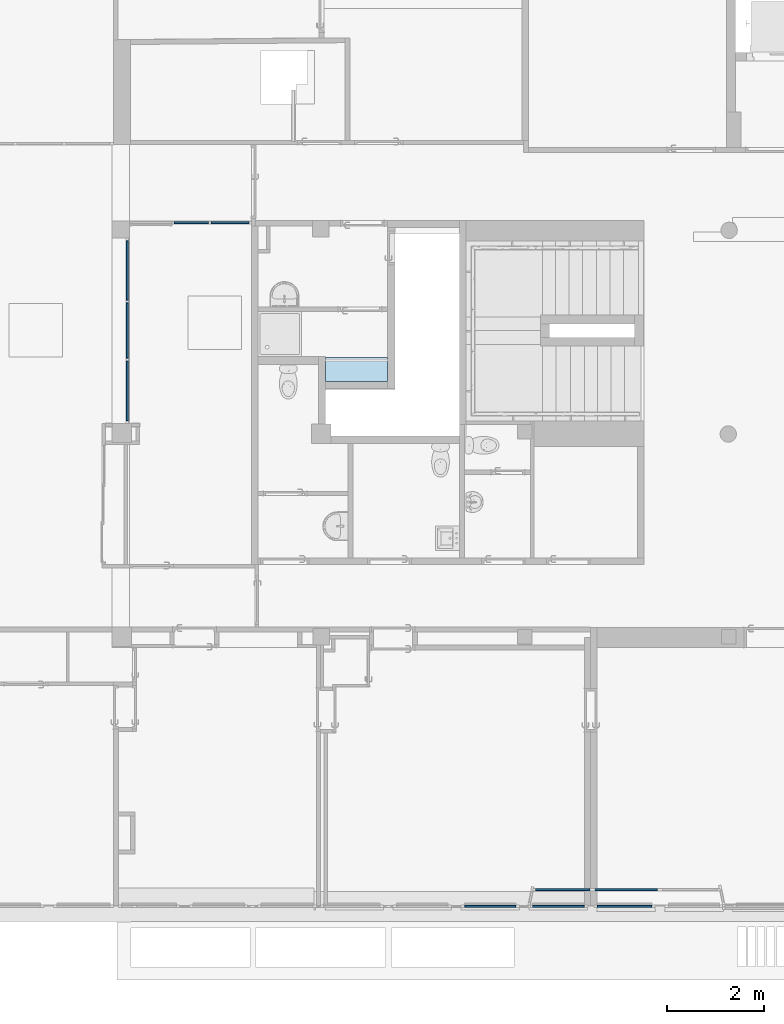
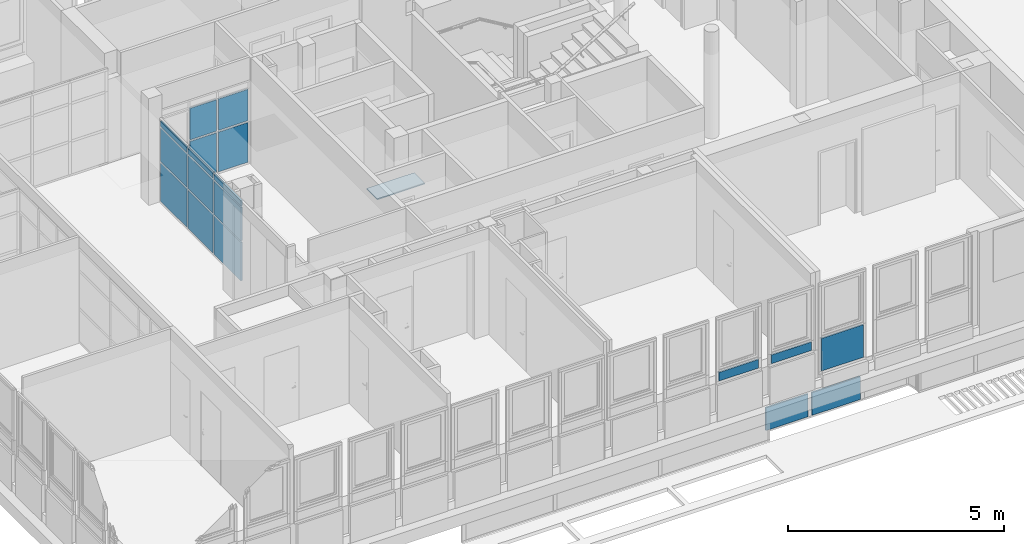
# One storey, part 29 of 97: 18 plates, 1 slab, 6 elements without a shape of their own.
"""IFC4 building model written with IfcOpenShell, lengths in metres."""

from ifc_helpers import new_model, entity, si_unit, converted_unit, derived_unit, direction, frame, origin, place, context, subcontext, project, spatial, indexed_curve, outline, extrude, shape, source, transform, mapped, material, layer, layer_set, type_object, type_shapes, element, aggregate, save


model = new_model("IFC4")

# Units and contexts
model_context = context("Model", 3, precision=1e-05, world=origin(), true_north=direction((6.12303176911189e-17, 1.0)))
body_context = subcontext(model_context, "Body", "Model", "MODEL_VIEW")
footprint_context = subcontext(model_context, "FootPrint", "Model", "MODEL_VIEW")
ifc_project = project(units=[si_unit("LENGTHUNIT", "METRE"), si_unit("AREAUNIT", "SQUARE_METRE"), si_unit("VOLUMEUNIT", "CUBIC_METRE"), converted_unit("PLANEANGLEUNIT", "DEGREE", entity("IfcRatioMeasure", 0.0174532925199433), si_unit("PLANEANGLEUNIT", "RADIAN"), dimensions=[0, 0, 0, 0, 0, 0, 0]), si_unit("MASSUNIT", "GRAM", prefix="KILO"), derived_unit("MASSDENSITYUNIT", [(si_unit("MASSUNIT", "GRAM", prefix="KILO"), 1), (si_unit("LENGTHUNIT", "METRE"), -3)]), derived_unit("MOMENTOFINERTIAUNIT", [(si_unit("LENGTHUNIT", "METRE"), 4)]), si_unit("TIMEUNIT", "SECOND"), si_unit("FREQUENCYUNIT", "HERTZ"), si_unit("THERMODYNAMICTEMPERATUREUNIT", "DEGREE_CELSIUS"), derived_unit("THERMALTRANSMITTANCEUNIT", [(si_unit("MASSUNIT", "GRAM", prefix="KILO"), 1), (si_unit("THERMODYNAMICTEMPERATUREUNIT", "KELVIN"), -1), (si_unit("TIMEUNIT", "SECOND"), -3)]), derived_unit("VOLUMETRICFLOWRATEUNIT", [(si_unit("LENGTHUNIT", "METRE"), 3), (si_unit("TIMEUNIT", "SECOND"), -1)]), si_unit("ELECTRICCURRENTUNIT", "AMPERE"), si_unit("ELECTRICVOLTAGEUNIT", "VOLT"), si_unit("POWERUNIT", "WATT"), si_unit("FORCEUNIT", "NEWTON", prefix="KILO"), si_unit("ILLUMINANCEUNIT", "LUX"), si_unit("LUMINOUSFLUXUNIT", "LUMEN"), si_unit("LUMINOUSINTENSITYUNIT", "CANDELA"), derived_unit("USERDEFINED", [(si_unit("MASSUNIT", "GRAM", prefix="KILO"), -1), (si_unit("LENGTHUNIT", "METRE"), -2), (si_unit("TIMEUNIT", "SECOND"), 3), (si_unit("LUMINOUSFLUXUNIT", "LUMEN"), 1)]), derived_unit("LINEARVELOCITYUNIT", [(si_unit("LENGTHUNIT", "METRE"), 1), (si_unit("TIMEUNIT", "SECOND"), -1)]), si_unit("PRESSUREUNIT", "PASCAL"), derived_unit("USERDEFINED", [(si_unit("LENGTHUNIT", "METRE"), -2), (si_unit("MASSUNIT", "GRAM", prefix="KILO"), 1), (si_unit("TIMEUNIT", "SECOND"), -2)]), derived_unit("LINEARFORCEUNIT", [(si_unit("MASSUNIT", "GRAM", prefix="KILO"), 1), (si_unit("LENGTHUNIT", "METRE"), 1), (si_unit("TIMEUNIT", "SECOND"), -2), (si_unit("LENGTHUNIT", "METRE"), -1)]), derived_unit("PLANARFORCEUNIT", [(si_unit("MASSUNIT", "GRAM", prefix="KILO"), 1), (si_unit("LENGTHUNIT", "METRE"), 1), (si_unit("TIMEUNIT", "SECOND"), -2), (si_unit("LENGTHUNIT", "METRE"), -2)])], contexts=[model_context])

# Site, building, storey
site_placement = place(None, origin())
site = spatial("IfcSite", under=ifc_project, at=site_placement, Name="Default", CompositionType="ELEMENT")
building_placement = place(site_placement, origin())
building = spatial("IfcBuilding", under=site, at=building_placement, Name="HOTEL CONSULAIRE BOULOGNE SUR MER", CompositionType="ELEMENT")
storey_placement = place(building_placement, frame((0.0, 0.0, 3.62152697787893)))
storey = spatial("IfcBuildingStorey", under=building, at=storey_placement, Name="Niveau 1", CompositionType="ELEMENT", Elevation=3.62152697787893)

# Curtain wall, plates
curtain_wall_type = type_object("IfcCurtainWallType", Name="Mur-rideau:Simple panneau", PredefinedType="NOTDEFINED")
curtain_wall_1_placement = place(storey_placement, frame((0.0, 0.0, -3.62152697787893)))
curtain_wall_1 = element("IfcCurtainWall", 1, at=curtain_wall_1_placement, inside=storey, type_object=curtain_wall_type, Name="Mur-rideau:Simple panneau", ObjectType="Mur-rideau:Simple panneau", PredefinedType="NOTDEFINED")
ifc_material_1 = material(Name="Verre", Category="Verre")
ifc_layer_1 = layer(ifc_material_1, 0.04, Name="Verre", Category="Verre")
ifc_layer_set_1 = layer_set([ifc_layer_1], Name="Mur-rideau:Simple panneau")
plate_type_1 = type_object("IfcPlateType", Name="Panneau système:Vitré", PredefinedType="CURTAIN_PANEL", material=ifc_layer_set_1)
shared_shape_1 = source(origin(), body_context, "Body", "SweptSolid", [
    extrude(outline(indexed_curve([(-0.02, -0.563), (0.02, -0.563), (0.02, 0.563), (-0.02, 0.563), (-0.02, -0.563)], self_intersect=False)), frame((0.563, 0.02, 0.0), z_axis=(0.0, 0.0, 1.0), x_axis=(0.0, 1.0, 0.0)), (0.0, 0.0, 1.0), 0.642526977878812),
])
shared_shape_2 = source(frame((-0.563, 0.00499999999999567, 0.0)), footprint_context, "FootPrint", "Curve2D", [
    entity("IfcIndexedPolyCurve", entity("IfcCartesianPointList2D", [[0.7346024, 0.00347599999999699], [0.7346024, 0.043475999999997], [-0.3913976, 0.043475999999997], [-0.3913976, 0.00347599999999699], [0.7346024, 0.00347599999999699]]), None, False),
])
type_shapes(plate_type_1, [shared_shape_1, shared_shape_2])
plate_1_placement = place(curtain_wall_1_placement, frame((3.18741738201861, -29.2507686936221, 2.36600000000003)))
plate_1 = element("IfcPlate", 2, at=plate_1_placement, type_object=plate_type_1, material=ifc_layer_set_1, Name="Panneau système:Vitré", ObjectType="Panneau système:Vitré", PredefinedType="CURTAIN_PANEL", shapes=[
    shape(body_context, "Body", "MappedRepresentation", [mapped(shared_shape_1, transform((0.0, 0.0, 0.0), scale=1.0))]),
    shape(body_context, "Body", "MappedRepresentation", [mapped(shared_shape_2, transform((0.0, 0.0, 0.0), scale=1.0))]),
])
plate_type_2 = type_object("IfcPlateType", Name="Panneau système:Vitré", PredefinedType="CURTAIN_PANEL", material=ifc_layer_set_1)
shared_shape_3 = source(origin(), body_context, "Body", "SweptSolid", [
    extrude(outline(indexed_curve([(-0.02, -0.647360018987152), (0.02, -0.647360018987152), (0.02, 0.647360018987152), (-0.02, 0.647360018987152), (-0.02, -0.647360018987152)], self_intersect=False)), frame((0.647360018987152, 0.02, 0.0), z_axis=(0.0, 0.0, 1.0), x_axis=(0.0, 1.0, 0.0)), (0.0, 0.0, 1.0), 0.642526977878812),
])
shared_shape_4 = source(frame((-0.647360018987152, 0.00500000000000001, 0.0)), footprint_context, "FootPrint", "Curve2D", [
    entity("IfcIndexedPolyCurve", entity("IfcCartesianPointList2D", [[0.844675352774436, 0.003476], [0.844675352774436, 0.043476], [-0.450044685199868, 0.043476], [-0.450044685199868, 0.003476], [0.844675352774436, 0.003476]]), None, False),
])
type_shapes(plate_type_2, [shared_shape_3, shared_shape_4])
plate_2_placement = place(curtain_wall_1_placement, frame((4.41341738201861, -29.2507686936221, 2.36600000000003)))
plate_2 = element("IfcPlate", 3, at=plate_2_placement, type_object=plate_type_2, material=ifc_layer_set_1, Name="Panneau système:Vitré", ObjectType="Panneau système:Vitré", PredefinedType="CURTAIN_PANEL", shapes=[
    shape(body_context, "Body", "MappedRepresentation", [mapped(shared_shape_3, transform((0.0, 0.0, 0.0), scale=1.0))]),
    shape(body_context, "Body", "MappedRepresentation", [mapped(shared_shape_4, transform((0.0, 0.0, 0.0), scale=1.0))]),
])
aggregate(curtain_wall_1, [plate_1, plate_2])

# Curtain wall, plate
curtain_wall_2_placement = place(storey_placement, frame((0.0, 0.0, -3.62152697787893)))
curtain_wall_2 = element("IfcCurtainWall", 4, at=curtain_wall_2_placement, inside=storey, type_object=curtain_wall_type, Name="Mur-rideau:Simple panneau", ObjectType="Mur-rideau:Simple panneau", PredefinedType="NOTDEFINED")
plate_type_3 = type_object("IfcPlateType", Name="Panneau système:Vitré", PredefinedType="CURTAIN_PANEL", material=ifc_layer_set_1)
shared_shape_5 = source(origin(), body_context, "Body", "SweptSolid", [
    extrude(outline(indexed_curve([(-0.02, -0.530000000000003), (0.02, -0.530000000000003), (0.02, 0.530000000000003), (-0.02, 0.530000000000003), (-0.02, -0.530000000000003)], self_intersect=False)), frame((0.530000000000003, 0.02, 0.0), z_axis=(0.0, 0.0, 1.0), x_axis=(0.0, 1.0, 0.0)), (0.0, 0.0, 1.0), 0.243),
])
shared_shape_6 = source(frame((-0.530000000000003, 0.00500000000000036, 0.0)), footprint_context, "FootPrint", "Curve2D", [
    entity("IfcIndexedPolyCurve", entity("IfcCartesianPointList2D", [[0.691544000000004, 0.00347600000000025], [0.691544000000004, 0.0434760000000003], [-0.368456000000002, 0.0434760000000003], [-0.368456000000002, 0.00347600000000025], [0.691544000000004, 0.00347600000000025]]), None, False),
])
type_shapes(plate_type_3, [shared_shape_5, shared_shape_6])
plate_3_placement = place(curtain_wall_2_placement, frame((2.78858002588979, -29.5551047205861, 4.48313951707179), z_axis=(0.0, 0.0, 1.0), x_axis=(-1.0, 0.0, 0.0)))
plate_3 = element("IfcPlate", 5, at=plate_3_placement, type_object=plate_type_3, material=ifc_layer_set_1, Name="Panneau système:Vitré", ObjectType="Panneau système:Vitré", PredefinedType="CURTAIN_PANEL", shapes=[
    shape(body_context, "Body", "MappedRepresentation", [mapped(shared_shape_5, transform((0.0, 0.0, 0.0), scale=1.0))]),
    shape(body_context, "Body", "MappedRepresentation", [mapped(shared_shape_6, transform((0.0, 0.0, 0.0), scale=1.0))]),
])
aggregate(curtain_wall_2, [plate_3])

curtain_wall_3_placement = place(storey_placement, frame((0.0, 0.0, -3.62152697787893)))
curtain_wall_3 = element("IfcCurtainWall", 6, at=curtain_wall_3_placement, inside=storey, type_object=curtain_wall_type, Name="Mur-rideau:Simple panneau", ObjectType="Mur-rideau:Simple panneau", PredefinedType="NOTDEFINED")
plate_type_4 = type_object("IfcPlateType", Name="Panneau système:Vitré", PredefinedType="CURTAIN_PANEL", material=ifc_layer_set_1)
shared_shape_7 = source(origin(), body_context, "Body", "SweptSolid", [
    extrude(outline(indexed_curve([(-0.02, -0.535), (0.02, -0.535), (0.02, 0.535), (-0.02, 0.535), (-0.02, -0.535)], self_intersect=False)), frame((0.535, 0.02, 0.0), z_axis=(0.0, 0.0, 1.0), x_axis=(0.0, 1.0, 0.0)), (0.0, 0.0, 1.0), 0.243),
])
shared_shape_8 = source(frame((-0.535000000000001, 0.00500000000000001, 0.0)), footprint_context, "FootPrint", "Curve2D", [
    entity("IfcIndexedPolyCurve", entity("IfcCartesianPointList2D", [[0.698068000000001, 0.003476], [0.698068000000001, 0.043476], [-0.371932, 0.043476], [-0.371932, 0.003476], [0.698068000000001, 0.003476]]), None, False),
])
type_shapes(plate_type_4, [shared_shape_7, shared_shape_8])
plate_4_placement = place(curtain_wall_3_placement, frame((4.19858002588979, -29.5551047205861, 4.48313951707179), z_axis=(0.0, 0.0, 1.0), x_axis=(-1.0, 0.0, 0.0)))
plate_4 = element("IfcPlate", 7, at=plate_4_placement, type_object=plate_type_4, material=ifc_layer_set_1, Name="Panneau système:Vitré", ObjectType="Panneau système:Vitré", PredefinedType="CURTAIN_PANEL", shapes=[
    shape(body_context, "Body", "MappedRepresentation", [mapped(shared_shape_7, transform((0.0, 0.0, 0.0), scale=1.0))]),
    shape(body_context, "Body", "MappedRepresentation", [mapped(shared_shape_8, transform((0.0, 0.0, 0.0), scale=1.0))]),
])
aggregate(curtain_wall_3, [plate_4])

curtain_wall_4_placement = place(storey_placement, frame((0.0, 0.0, -3.62152697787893)))
curtain_wall_4 = element("IfcCurtainWall", 8, at=curtain_wall_4_placement, inside=storey, type_object=curtain_wall_type, Name="Mur-rideau:Simple panneau", ObjectType="Mur-rideau:Simple panneau", PredefinedType="NOTDEFINED")
plate_type_5 = type_object("IfcPlateType", Name="Panneau système:Vitré", PredefinedType="CURTAIN_PANEL", material=ifc_layer_set_1)
shared_shape_9 = source(origin(), body_context, "Body", "SweptSolid", [
    extrude(outline(indexed_curve([(-0.02, -0.5625), (0.02, -0.5625), (0.02, 0.5625), (-0.02, 0.5625), (-0.02, -0.5625)], self_intersect=False)), frame((0.5625, 0.02, 0.0), z_axis=(0.0, 0.0, 1.0), x_axis=(0.0, 1.0, 0.0)), (0.0, 0.0, 1.0), 0.919),
])
shared_shape_10 = source(frame((-0.5625, 0.00500000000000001, 0.0)), footprint_context, "FootPrint", "Curve2D", [
    entity("IfcIndexedPolyCurve", entity("IfcCartesianPointList2D", [[0.733949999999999, 0.003476], [0.733949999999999, 0.043476], [-0.39105, 0.043476], [-0.39105, 0.003476], [0.733949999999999, 0.003476]]), None, False),
])
type_shapes(plate_type_5, [shared_shape_9, shared_shape_10])
plate_5_placement = place(curtain_wall_4_placement, frame((5.58858002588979, -29.5551047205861, 3.80762929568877), z_axis=(0.0, 0.0, 1.0), x_axis=(-1.0, 0.0, 0.0)))
plate_5 = element("IfcPlate", 9, at=plate_5_placement, type_object=plate_type_5, material=ifc_layer_set_1, Name="Panneau système:Vitré", ObjectType="Panneau système:Vitré", PredefinedType="CURTAIN_PANEL", shapes=[
    shape(body_context, "Body", "MappedRepresentation", [mapped(shared_shape_9, transform((0.0, 0.0, 0.0), scale=1.0))]),
    shape(body_context, "Body", "MappedRepresentation", [mapped(shared_shape_10, transform((0.0, 0.0, 0.0), scale=1.0))]),
])
aggregate(curtain_wall_4, [plate_5])

# Slab
ifc_material_2 = material(Name="Résineux, bois de construction", Category="Bois")
ifc_layer_2 = layer(ifc_material_2, 0.03, Name="Résineux, bois de construction", Category="Bois")
ifc_layer_set_2 = layer_set([ifc_layer_2], Name="Sol:bois 30 mm")
slab_type = type_object("IfcSlabType", Name="Sol:bois 30 mm", PredefinedType="FLOOR", material=ifc_layer_set_2)
slab_placement = place(storey_placement, origin())
element("IfcSlab", 10, at=slab_placement, inside=storey, type_object=slab_type, material=ifc_layer_set_2, Name="Sol:bois 30 mm", ObjectType="Sol:bois 30 mm", PredefinedType="FLOOR", context=body_context, shape_type="SweptSolid", body=[
    extrude(outline(indexed_curve([(-0.245286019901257, -0.6385), (0.245286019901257, -0.6385), (0.245286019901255, 0.6385), (-0.245286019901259, 0.6385), (-0.245286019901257, -0.6385)], self_intersect=False)), frame((-0.496864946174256, -18.5093352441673, 0.435137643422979), z_axis=(0.0, 0.0, -1.0), x_axis=(0.0, 1.0, 0.0)), (0.0, 0.0, 1.0), 0.0300000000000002),
])

# Curtain wall, plates
curtain_wall_5_placement = place(storey_placement, frame((0.0, 0.0, -3.62152697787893)))
curtain_wall_5 = element("IfcCurtainWall", 11, at=curtain_wall_5_placement, inside=storey, type_object=curtain_wall_type, Name="Mur-rideau:Simple panneau", ObjectType="Mur-rideau:Simple panneau", PredefinedType="NOTDEFINED")
ifc_layer_3 = layer(ifc_material_1, 0.04, Name="Verre", Category="Verre")
ifc_layer_set_3 = layer_set([ifc_layer_3], Name="Mur-rideau:Simple panneau")
plate_type_6 = type_object("IfcPlateType", Name="Panneau système:Plein", PredefinedType="CURTAIN_PANEL", material=ifc_layer_set_3)
shared_shape_11 = source(origin(), body_context, "Body", "SweptSolid", [
    extrude(outline(indexed_curve([(-0.02, -0.618499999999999), (0.02, -0.618499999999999), (0.02, 0.618499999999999), (-0.02, 0.618499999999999), (-0.02, -0.618499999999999)], self_intersect=False)), frame((0.618499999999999, 0.02, 0.0), z_axis=(0.0, 0.0, 1.0), x_axis=(0.0, 1.0, 0.0)), (0.0, 0.0, 1.0), 1.081),
])
shared_shape_12 = source(frame((-0.618499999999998, 0.00499999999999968, 0.0)), footprint_context, "FootPrint", "Curve2D", [
    entity("IfcIndexedPolyCurve", entity("IfcCartesianPointList2D", [[0.8070188, 0.00347599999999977], [0.8070188, 0.0434759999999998], [-0.429981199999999, 0.0434759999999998], [-0.429981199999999, 0.00347599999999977], [0.8070188, 0.00347599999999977]]), None, False),
])
type_shapes(plate_type_6, [shared_shape_11, shared_shape_12])
plate_6_placement = place(curtain_wall_5_placement, frame((-5.20352868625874, -19.5670276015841, 3.67152697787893), z_axis=(0.0, 0.0, 1.0), x_axis=(0.0, 1.0, 0.0)))
plate_6 = element("IfcPlate", 12, at=plate_6_placement, type_object=plate_type_6, material=ifc_layer_set_3, Name="Panneau système:Plein", ObjectType="Panneau système:Plein", PredefinedType="CURTAIN_PANEL", shapes=[
    shape(body_context, "Body", "MappedRepresentation", [mapped(shared_shape_11, transform((0.0, 0.0, 0.0), scale=1.0))]),
    shape(body_context, "Body", "MappedRepresentation", [mapped(shared_shape_12, transform((0.0, 0.0, 0.0), scale=1.0))]),
])
plate_type_7 = type_object("IfcPlateType", Name="Panneau système:Plein", PredefinedType="CURTAIN_PANEL", material=ifc_layer_set_3)
shared_shape_13 = source(origin(), body_context, "Body", "SweptSolid", [
    extrude(outline(indexed_curve([(-0.02, -0.574499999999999), (0.02, -0.574499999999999), (0.02, 0.574499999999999), (-0.02, 0.574499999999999), (-0.02, -0.574499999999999)], self_intersect=False)), frame((0.574499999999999, 0.02, 0.0), z_axis=(0.0, 0.0, 1.0), x_axis=(0.0, 1.0, 0.0)), (0.0, 0.0, 1.0), 1.081),
])
shared_shape_14 = source(frame((-0.574499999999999, 0.00499999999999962, 0.0)), footprint_context, "FootPrint", "Curve2D", [
    entity("IfcIndexedPolyCurve", entity("IfcCartesianPointList2D", [[0.749607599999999, 0.00347599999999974], [0.749607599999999, 0.0434759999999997], [-0.3993924, 0.0434759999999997], [-0.3993924, 0.00347599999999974], [0.749607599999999, 0.00347599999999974]]), None, False),
])
type_shapes(plate_type_7, [shared_shape_13, shared_shape_14])
plate_7_placement = place(curtain_wall_5_placement, frame((-5.20352868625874, -18.2800276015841, 3.67152697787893), z_axis=(0.0, 0.0, 1.0), x_axis=(0.0, 1.0, 0.0)))
plate_7 = element("IfcPlate", 13, at=plate_7_placement, type_object=plate_type_7, material=ifc_layer_set_3, Name="Panneau système:Plein", ObjectType="Panneau système:Plein", PredefinedType="CURTAIN_PANEL", shapes=[
    shape(body_context, "Body", "MappedRepresentation", [mapped(shared_shape_13, transform((0.0, 0.0, 0.0), scale=1.0))]),
    shape(body_context, "Body", "MappedRepresentation", [mapped(shared_shape_14, transform((0.0, 0.0, 0.0), scale=1.0))]),
])
plate_type_8 = type_object("IfcPlateType", Name="Panneau système:Plein", PredefinedType="CURTAIN_PANEL", material=ifc_layer_set_3)
shared_shape_15 = source(origin(), body_context, "Body", "SweptSolid", [
    extrude(outline(indexed_curve([(-0.02, -0.614084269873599), (0.02, -0.614084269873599), (0.02, 0.614084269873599), (-0.02, 0.614084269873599), (-0.02, -0.614084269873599)], self_intersect=False)), frame((0.614084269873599, 0.02, 0.0), z_axis=(0.0, 0.0, 1.0), x_axis=(0.0, 1.0, 0.0)), (0.0, 0.0, 1.0), 1.081),
])
shared_shape_16 = source(frame((-0.614084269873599, 0.00500000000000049, 0.0)), footprint_context, "FootPrint", "Curve2D", [
    entity("IfcIndexedPolyCurve", entity("IfcCartesianPointList2D", [[0.801257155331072, 0.00347600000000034], [0.801257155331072, 0.0434760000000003], [-0.426911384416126, 0.0434760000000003], [-0.426911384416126, 0.00347600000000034], [0.801257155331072, 0.00347600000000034]]), None, False),
])
type_shapes(plate_type_8, [shared_shape_15, shared_shape_16])
plate_8_placement = place(curtain_wall_5_placement, frame((-5.20352868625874, -17.0810276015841, 3.67152697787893), z_axis=(0.0, 0.0, 1.0), x_axis=(0.0, 1.0, 0.0)))
plate_8 = element("IfcPlate", 14, at=plate_8_placement, type_object=plate_type_8, material=ifc_layer_set_3, Name="Panneau système:Plein", ObjectType="Panneau système:Plein", PredefinedType="CURTAIN_PANEL", shapes=[
    shape(body_context, "Body", "MappedRepresentation", [mapped(shared_shape_15, transform((0.0, 0.0, 0.0), scale=1.0))]),
    shape(body_context, "Body", "MappedRepresentation", [mapped(shared_shape_16, transform((0.0, 0.0, 0.0), scale=1.0))]),
])
plate_type_9 = type_object("IfcPlateType", Name="Panneau système:Vitré", PredefinedType="CURTAIN_PANEL", material=ifc_layer_set_1)
shared_shape_17 = source(origin(), body_context, "Body", "SweptSolid", [
    extrude(outline(indexed_curve([(-0.02, -0.618499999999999), (0.02, -0.618499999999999), (0.02, 0.618499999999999), (-0.02, 0.618499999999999), (-0.02, -0.618499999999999)], self_intersect=False)), frame((0.618499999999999, 0.02, 0.0), z_axis=(0.0, 0.0, 1.0), x_axis=(0.0, 1.0, 0.0)), (0.0, 0.0, 1.0), 0.933699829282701),
])
shared_shape_18 = source(frame((-0.618499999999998, 0.00499999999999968, 0.0)), footprint_context, "FootPrint", "Curve2D", [
    entity("IfcIndexedPolyCurve", entity("IfcCartesianPointList2D", [[0.8070188, 0.00347599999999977], [0.8070188, 0.0434759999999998], [-0.429981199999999, 0.0434759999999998], [-0.429981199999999, 0.00347599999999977], [0.8070188, 0.00347599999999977]]), None, False),
])
type_shapes(plate_type_9, [shared_shape_17, shared_shape_18])
plate_9_placement = place(curtain_wall_5_placement, frame((-5.20352868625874, -19.5670276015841, 4.80252697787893), z_axis=(0.0, 0.0, 1.0), x_axis=(0.0, 1.0, 0.0)))
plate_9 = element("IfcPlate", 15, at=plate_9_placement, type_object=plate_type_9, material=ifc_layer_set_1, Name="Panneau système:Vitré", ObjectType="Panneau système:Vitré", PredefinedType="CURTAIN_PANEL", shapes=[
    shape(body_context, "Body", "MappedRepresentation", [mapped(shared_shape_17, transform((0.0, 0.0, 0.0), scale=1.0))]),
    shape(body_context, "Body", "MappedRepresentation", [mapped(shared_shape_18, transform((0.0, 0.0, 0.0), scale=1.0))]),
])
plate_type_10 = type_object("IfcPlateType", Name="Panneau système:Vitré", PredefinedType="CURTAIN_PANEL", material=ifc_layer_set_1)
shared_shape_19 = source(origin(), body_context, "Body", "SweptSolid", [
    extrude(outline(indexed_curve([(-0.02, -0.574499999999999), (0.02, -0.574499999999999), (0.02, 0.574499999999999), (-0.02, 0.574499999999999), (-0.02, -0.574499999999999)], self_intersect=False)), frame((0.574499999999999, 0.02, 0.0), z_axis=(0.0, 0.0, 1.0), x_axis=(0.0, 1.0, 0.0)), (0.0, 0.0, 1.0), 0.933699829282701),
])
shared_shape_20 = source(frame((-0.574499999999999, 0.00499999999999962, 0.0)), footprint_context, "FootPrint", "Curve2D", [
    entity("IfcIndexedPolyCurve", entity("IfcCartesianPointList2D", [[0.749607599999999, 0.00347599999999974], [0.749607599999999, 0.0434759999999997], [-0.3993924, 0.0434759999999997], [-0.3993924, 0.00347599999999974], [0.749607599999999, 0.00347599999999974]]), None, False),
])
type_shapes(plate_type_10, [shared_shape_19, shared_shape_20])
plate_10_placement = place(curtain_wall_5_placement, frame((-5.20352868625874, -18.2800276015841, 4.80252697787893), z_axis=(0.0, 0.0, 1.0), x_axis=(0.0, 1.0, 0.0)))
plate_10 = element("IfcPlate", 16, at=plate_10_placement, type_object=plate_type_10, material=ifc_layer_set_1, Name="Panneau système:Vitré", ObjectType="Panneau système:Vitré", PredefinedType="CURTAIN_PANEL", shapes=[
    shape(body_context, "Body", "MappedRepresentation", [mapped(shared_shape_19, transform((0.0, 0.0, 0.0), scale=1.0))]),
    shape(body_context, "Body", "MappedRepresentation", [mapped(shared_shape_20, transform((0.0, 0.0, 0.0), scale=1.0))]),
])
plate_type_11 = type_object("IfcPlateType", Name="Panneau système:Vitré", PredefinedType="CURTAIN_PANEL", material=ifc_layer_set_1)
shared_shape_21 = source(origin(), body_context, "Body", "SweptSolid", [
    extrude(outline(indexed_curve([(-0.02, -0.614084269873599), (0.02, -0.614084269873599), (0.02, 0.614084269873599), (-0.02, 0.614084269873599), (-0.02, -0.614084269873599)], self_intersect=False)), frame((0.614084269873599, 0.02, 0.0), z_axis=(0.0, 0.0, 1.0), x_axis=(0.0, 1.0, 0.0)), (0.0, 0.0, 1.0), 0.933699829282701),
])
shared_shape_22 = source(frame((-0.614084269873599, 0.00500000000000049, 0.0)), footprint_context, "FootPrint", "Curve2D", [
    entity("IfcIndexedPolyCurve", entity("IfcCartesianPointList2D", [[0.801257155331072, 0.00347600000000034], [0.801257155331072, 0.0434760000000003], [-0.426911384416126, 0.0434760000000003], [-0.426911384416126, 0.00347600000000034], [0.801257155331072, 0.00347600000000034]]), None, False),
])
type_shapes(plate_type_11, [shared_shape_21, shared_shape_22])
plate_11_placement = place(curtain_wall_5_placement, frame((-5.20352868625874, -17.0810276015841, 4.80252697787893), z_axis=(0.0, 0.0, 1.0), x_axis=(0.0, 1.0, 0.0)))
plate_11 = element("IfcPlate", 17, at=plate_11_placement, type_object=plate_type_11, material=ifc_layer_set_1, Name="Panneau système:Vitré", ObjectType="Panneau système:Vitré", PredefinedType="CURTAIN_PANEL", shapes=[
    shape(body_context, "Body", "MappedRepresentation", [mapped(shared_shape_21, transform((0.0, 0.0, 0.0), scale=1.0))]),
    shape(body_context, "Body", "MappedRepresentation", [mapped(shared_shape_22, transform((0.0, 0.0, 0.0), scale=1.0))]),
])
plate_type_12 = type_object("IfcPlateType", Name="Panneau système:Plein", PredefinedType="CURTAIN_PANEL", material=ifc_layer_set_3)
shared_shape_23 = source(origin(), body_context, "Body", "SweptSolid", [
    extrude(outline(indexed_curve([(-0.02, -0.618499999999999), (0.02, -0.618499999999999), (0.02, 0.618499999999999), (-0.02, 0.618499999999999), (-0.02, -0.618499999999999)], self_intersect=False)), frame((0.618499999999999, 0.02, 0.0), z_axis=(0.0, 0.0, 1.0), x_axis=(0.0, 1.0, 0.0)), (0.0, 0.0, 1.0), 0.155514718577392),
])
shared_shape_24 = source(frame((-0.618499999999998, 0.00499999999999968, 0.0)), footprint_context, "FootPrint", "Curve2D", [
    entity("IfcIndexedPolyCurve", entity("IfcCartesianPointList2D", [[0.8070188, 0.00347599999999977], [0.8070188, 0.0434759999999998], [-0.429981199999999, 0.0434759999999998], [-0.429981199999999, 0.00347599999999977], [0.8070188, 0.00347599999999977]]), None, False),
])
type_shapes(plate_type_12, [shared_shape_23, shared_shape_24])
plate_12_placement = place(curtain_wall_5_placement, frame((-5.20352868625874, -19.5670276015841, 5.78622680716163), z_axis=(0.0, 0.0, 1.0), x_axis=(0.0, 1.0, 0.0)))
plate_12 = element("IfcPlate", 18, at=plate_12_placement, type_object=plate_type_12, material=ifc_layer_set_3, Name="Panneau système:Plein", ObjectType="Panneau système:Plein", PredefinedType="CURTAIN_PANEL", shapes=[
    shape(body_context, "Body", "MappedRepresentation", [mapped(shared_shape_23, transform((0.0, 0.0, 0.0), scale=1.0))]),
    shape(body_context, "Body", "MappedRepresentation", [mapped(shared_shape_24, transform((0.0, 0.0, 0.0), scale=1.0))]),
])
plate_type_13 = type_object("IfcPlateType", Name="Panneau système:Plein", PredefinedType="CURTAIN_PANEL", material=ifc_layer_set_3)
shared_shape_25 = source(origin(), body_context, "Body", "SweptSolid", [
    extrude(outline(indexed_curve([(-0.02, -0.574499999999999), (0.02, -0.574499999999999), (0.02, 0.574499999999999), (-0.02, 0.574499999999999), (-0.02, -0.574499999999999)], self_intersect=False)), frame((0.574499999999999, 0.02, 0.0), z_axis=(0.0, 0.0, 1.0), x_axis=(0.0, 1.0, 0.0)), (0.0, 0.0, 1.0), 0.155514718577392),
])
shared_shape_26 = source(frame((-0.574499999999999, 0.00499999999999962, 0.0)), footprint_context, "FootPrint", "Curve2D", [
    entity("IfcIndexedPolyCurve", entity("IfcCartesianPointList2D", [[0.749607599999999, 0.00347599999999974], [0.749607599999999, 0.0434759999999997], [-0.3993924, 0.0434759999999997], [-0.3993924, 0.00347599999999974], [0.749607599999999, 0.00347599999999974]]), None, False),
])
type_shapes(plate_type_13, [shared_shape_25, shared_shape_26])
plate_13_placement = place(curtain_wall_5_placement, frame((-5.20352868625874, -18.2800276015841, 5.78622680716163), z_axis=(0.0, 0.0, 1.0), x_axis=(0.0, 1.0, 0.0)))
plate_13 = element("IfcPlate", 19, at=plate_13_placement, type_object=plate_type_13, material=ifc_layer_set_3, Name="Panneau système:Plein", ObjectType="Panneau système:Plein", PredefinedType="CURTAIN_PANEL", shapes=[
    shape(body_context, "Body", "MappedRepresentation", [mapped(shared_shape_25, transform((0.0, 0.0, 0.0), scale=1.0))]),
    shape(body_context, "Body", "MappedRepresentation", [mapped(shared_shape_26, transform((0.0, 0.0, 0.0), scale=1.0))]),
])
plate_type_14 = type_object("IfcPlateType", Name="Panneau système:Plein", PredefinedType="CURTAIN_PANEL", material=ifc_layer_set_3)
shared_shape_27 = source(origin(), body_context, "Body", "SweptSolid", [
    extrude(outline(indexed_curve([(-0.02, -0.614084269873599), (0.02, -0.614084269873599), (0.02, 0.614084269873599), (-0.02, 0.614084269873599), (-0.02, -0.614084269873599)], self_intersect=False)), frame((0.614084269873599, 0.02, 0.0), z_axis=(0.0, 0.0, 1.0), x_axis=(0.0, 1.0, 0.0)), (0.0, 0.0, 1.0), 0.155514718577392),
])
shared_shape_28 = source(frame((-0.614084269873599, 0.00500000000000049, 0.0)), footprint_context, "FootPrint", "Curve2D", [
    entity("IfcIndexedPolyCurve", entity("IfcCartesianPointList2D", [[0.801257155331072, 0.00347600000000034], [0.801257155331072, 0.0434760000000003], [-0.426911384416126, 0.0434760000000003], [-0.426911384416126, 0.00347600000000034], [0.801257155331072, 0.00347600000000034]]), None, False),
])
type_shapes(plate_type_14, [shared_shape_27, shared_shape_28])
plate_14_placement = place(curtain_wall_5_placement, frame((-5.20352868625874, -17.0810276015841, 5.78622680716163), z_axis=(0.0, 0.0, 1.0), x_axis=(0.0, 1.0, 0.0)))
plate_14 = element("IfcPlate", 20, at=plate_14_placement, type_object=plate_type_14, material=ifc_layer_set_3, Name="Panneau système:Plein", ObjectType="Panneau système:Plein", PredefinedType="CURTAIN_PANEL", shapes=[
    shape(body_context, "Body", "MappedRepresentation", [mapped(shared_shape_27, transform((0.0, 0.0, 0.0), scale=1.0))]),
    shape(body_context, "Body", "MappedRepresentation", [mapped(shared_shape_28, transform((0.0, 0.0, 0.0), scale=1.0))]),
])
aggregate(curtain_wall_5, [plate_6, plate_7, plate_8, plate_9, plate_10, plate_11, plate_12, plate_13, plate_14])

curtain_wall_6_placement = place(storey_placement, frame((0.0, 0.0, -3.62152697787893)))
curtain_wall_6 = element("IfcCurtainWall", 21, at=curtain_wall_6_placement, inside=storey, type_object=curtain_wall_type, Name="Mur-rideau:Simple panneau", ObjectType="Mur-rideau:Simple panneau", PredefinedType="NOTDEFINED")
plate_type_15 = type_object("IfcPlateType", Name="Panneau système:Plein", PredefinedType="CURTAIN_PANEL", material=ifc_layer_set_3)
shared_shape_29 = source(origin(), body_context, "Body", "SweptSolid", [
    extrude(outline(indexed_curve([(-0.02, -0.355), (0.02, -0.355), (0.02, 0.355), (-0.02, 0.355), (-0.02, -0.355)], self_intersect=False)), frame((0.355, 0.02, 0.0), z_axis=(0.0, 0.0, 1.0), x_axis=(0.0, 1.0, 0.0)), (0.0, 0.0, 1.0), 1.12239646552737),
])
shared_shape_30 = source(frame((-0.355, 0.00500000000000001, 0.0)), footprint_context, "FootPrint", "Curve2D", [
    entity("IfcIndexedPolyCurve", entity("IfcCartesianPointList2D", [[0.463204, 0.003476], [0.463204, 0.043476], [-0.246796, 0.043476], [-0.246796, 0.003476], [0.463204, 0.003476]]), None, False),
])
type_shapes(plate_type_15, [shared_shape_29, shared_shape_30])
plate_15_placement = place(curtain_wall_6_placement, frame((-4.25552868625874, -15.5018590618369, 3.67152697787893)))
plate_15 = element("IfcPlate", 22, at=plate_15_placement, type_object=plate_type_15, material=ifc_layer_set_3, Name="Panneau système:Plein", ObjectType="Panneau système:Plein", PredefinedType="CURTAIN_PANEL", shapes=[
    shape(body_context, "Body", "MappedRepresentation", [mapped(shared_shape_29, transform((0.0, 0.0, 0.0), scale=1.0))]),
    shape(body_context, "Body", "MappedRepresentation", [mapped(shared_shape_30, transform((0.0, 0.0, 0.0), scale=1.0))]),
])
plate_type_16 = type_object("IfcPlateType", Name="Panneau système:Plein", PredefinedType="CURTAIN_PANEL", material=ifc_layer_set_3)
shared_shape_31 = source(origin(), body_context, "Body", "SweptSolid", [
    extrude(outline(indexed_curve([(-0.02, -0.3925), (0.02, -0.3925), (0.02, 0.3925), (-0.02, 0.3925), (-0.02, -0.3925)], self_intersect=False)), frame((0.3925, 0.02, 0.0), z_axis=(0.0, 0.0, 1.0), x_axis=(0.0, 1.0, 0.0)), (0.0, 0.0, 1.0), 1.12239646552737),
])
shared_shape_32 = source(frame((-0.3925, 0.00500000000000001, 0.0)), footprint_context, "FootPrint", "Curve2D", [
    entity("IfcIndexedPolyCurve", entity("IfcCartesianPointList2D", [[0.512134, 0.003476], [0.512134, 0.043476], [-0.272866, 0.043476], [-0.272866, 0.003476], [0.512134, 0.003476]]), None, False),
])
type_shapes(plate_type_16, [shared_shape_31, shared_shape_32])
plate_16_placement = place(curtain_wall_6_placement, frame((-3.49552868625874, -15.5018590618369, 3.67152697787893)))
plate_16 = element("IfcPlate", 23, at=plate_16_placement, type_object=plate_type_16, material=ifc_layer_set_3, Name="Panneau système:Plein", ObjectType="Panneau système:Plein", PredefinedType="CURTAIN_PANEL", shapes=[
    shape(body_context, "Body", "MappedRepresentation", [mapped(shared_shape_31, transform((0.0, 0.0, 0.0), scale=1.0))]),
    shape(body_context, "Body", "MappedRepresentation", [mapped(shared_shape_32, transform((0.0, 0.0, 0.0), scale=1.0))]),
])
plate_type_17 = type_object("IfcPlateType", Name="Panneau système:Vitré", PredefinedType="CURTAIN_PANEL", material=ifc_layer_set_1)
shared_shape_33 = source(origin(), body_context, "Body", "SweptSolid", [
    extrude(outline(indexed_curve([(-0.02, -0.355), (0.02, -0.355), (0.02, 0.355), (-0.02, 0.355), (-0.02, -0.355)], self_intersect=False)), frame((0.355, 0.02, 0.0), z_axis=(0.0, 0.0, 1.0), x_axis=(0.0, 1.0, 0.0)), (0.0, 0.0, 1.0), 0.886),
])
shared_shape_34 = source(frame((-0.355, 0.00500000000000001, 0.0)), footprint_context, "FootPrint", "Curve2D", [
    entity("IfcIndexedPolyCurve", entity("IfcCartesianPointList2D", [[0.463204, 0.003476], [0.463204, 0.043476], [-0.246796, 0.043476], [-0.246796, 0.003476], [0.463204, 0.003476]]), None, False),
])
type_shapes(plate_type_17, [shared_shape_33, shared_shape_34])
plate_17_placement = place(curtain_wall_6_placement, frame((-4.25552868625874, -15.5018590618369, 4.8439234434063)))
plate_17 = element("IfcPlate", 24, at=plate_17_placement, type_object=plate_type_17, material=ifc_layer_set_1, Name="Panneau système:Vitré", ObjectType="Panneau système:Vitré", PredefinedType="CURTAIN_PANEL", shapes=[
    shape(body_context, "Body", "MappedRepresentation", [mapped(shared_shape_33, transform((0.0, 0.0, 0.0), scale=1.0))]),
    shape(body_context, "Body", "MappedRepresentation", [mapped(shared_shape_34, transform((0.0, 0.0, 0.0), scale=1.0))]),
])
plate_type_18 = type_object("IfcPlateType", Name="Panneau système:Vitré", PredefinedType="CURTAIN_PANEL", material=ifc_layer_set_1)
shared_shape_35 = source(origin(), body_context, "Body", "SweptSolid", [
    extrude(outline(indexed_curve([(-0.02, -0.3925), (0.02, -0.3925), (0.02, 0.3925), (-0.02, 0.3925), (-0.02, -0.3925)], self_intersect=False)), frame((0.3925, 0.02, 0.0), z_axis=(0.0, 0.0, 1.0), x_axis=(0.0, 1.0, 0.0)), (0.0, 0.0, 1.0), 0.886),
])
shared_shape_36 = source(frame((-0.3925, 0.00500000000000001, 0.0)), footprint_context, "FootPrint", "Curve2D", [
    entity("IfcIndexedPolyCurve", entity("IfcCartesianPointList2D", [[0.512134, 0.003476], [0.512134, 0.043476], [-0.272866, 0.043476], [-0.272866, 0.003476], [0.512134, 0.003476]]), None, False),
])
type_shapes(plate_type_18, [shared_shape_35, shared_shape_36])
plate_18_placement = place(curtain_wall_6_placement, frame((-3.49552868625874, -15.5018590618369, 4.8439234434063)))
plate_18 = element("IfcPlate", 25, at=plate_18_placement, type_object=plate_type_18, material=ifc_layer_set_1, Name="Panneau système:Vitré", ObjectType="Panneau système:Vitré", PredefinedType="CURTAIN_PANEL", shapes=[
    shape(body_context, "Body", "MappedRepresentation", [mapped(shared_shape_35, transform((0.0, 0.0, 0.0), scale=1.0))]),
    shape(body_context, "Body", "MappedRepresentation", [mapped(shared_shape_36, transform((0.0, 0.0, 0.0), scale=1.0))]),
])
aggregate(curtain_wall_6, [plate_15, plate_16, plate_17, plate_18])

save(model, "model.ifc")
